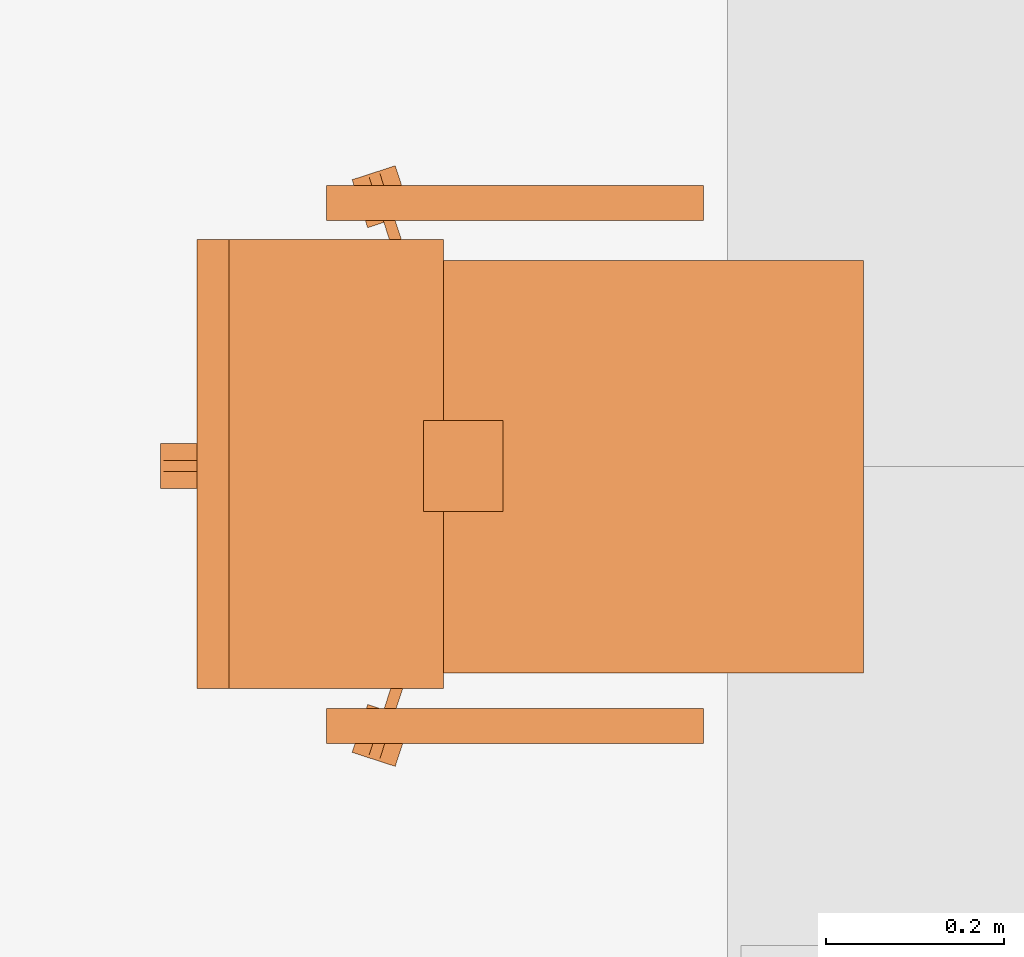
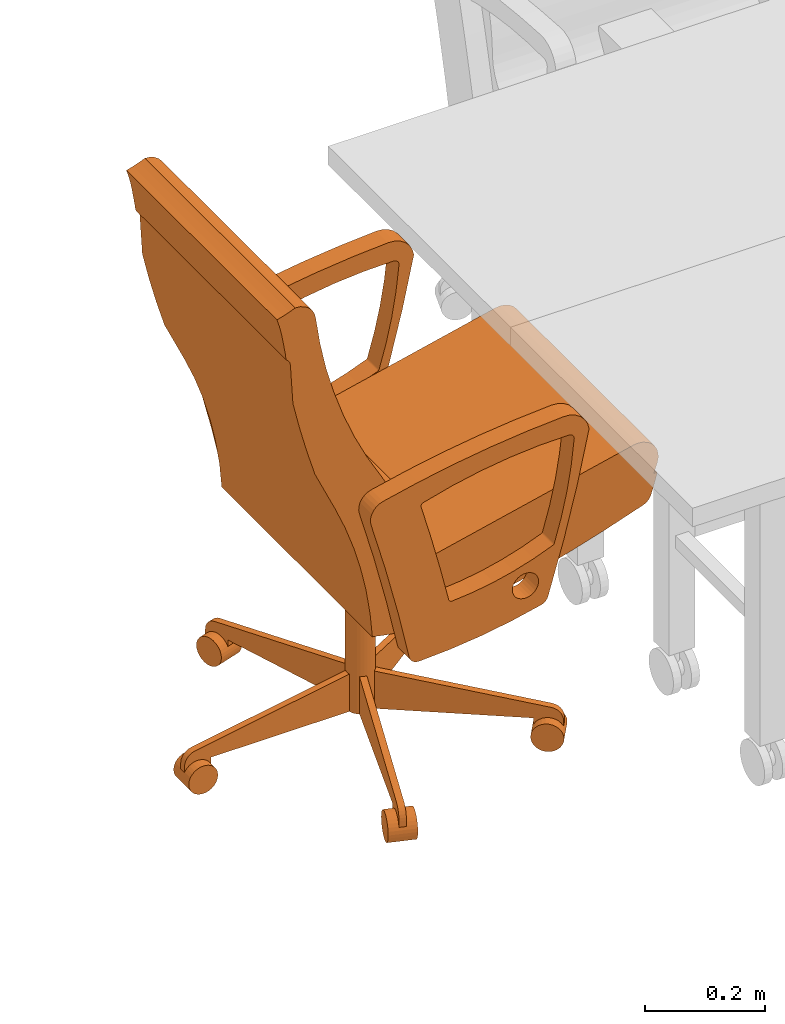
# One storey, part 50 of 142: 1 proxy.
"""IFC2X3 building model written with IfcOpenShell, lengths in feet."""

from ifc_helpers import new_model, entity, si_unit, converted_unit, derived_unit, direction, frame, frame_2d, origin, place, context, subcontext, project, spatial, polyline, circle_curve, parameter, trimmed, segment, composite_curve, circle, outline, extrude, source, transform, mapped, type_object, type_shapes, element, save


model = new_model("IFC2X3")

# Units and contexts
model_context = context("Model", 3, precision=0.0001, world=origin(), true_north=direction((6.12303176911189e-17, 1.0)))
body_context = subcontext(model_context, "Body", "Model", "MODEL_VIEW")
ifc_project = project(units=[converted_unit("LENGTHUNIT", "FOOT", entity("IfcRatioMeasure", 0.3048), si_unit("LENGTHUNIT", "METRE"), dimensions=[1, 0, 0, 0, 0, 0, 0]), converted_unit("AREAUNIT", "SQUARE FOOT", entity("IfcRatioMeasure", 0.09290304), si_unit("AREAUNIT", "SQUARE_METRE"), dimensions=[2, 0, 0, 0, 0, 0, 0]), converted_unit("VOLUMEUNIT", "CUBIC FOOT", entity("IfcRatioMeasure", 0.028316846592), si_unit("VOLUMEUNIT", "CUBIC_METRE"), dimensions=[3, 0, 0, 0, 0, 0, 0]), converted_unit("PLANEANGLEUNIT", "DEGREE", entity("IfcRatioMeasure", 0.0174532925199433), si_unit("PLANEANGLEUNIT", "RADIAN"), dimensions=[0, 0, 0, 0, 0, 0, 0]), si_unit("MASSUNIT", "GRAM", prefix="KILO"), derived_unit("MASSDENSITYUNIT", [(si_unit("MASSUNIT", "GRAM", prefix="KILO"), 1), (si_unit("LENGTHUNIT", "METRE"), -3)]), si_unit("TIMEUNIT", "SECOND"), si_unit("FREQUENCYUNIT", "HERTZ"), si_unit("THERMODYNAMICTEMPERATUREUNIT", "DEGREE_CELSIUS"), derived_unit("THERMALTRANSMITTANCEUNIT", [(si_unit("MASSUNIT", "GRAM", prefix="KILO"), 1), (si_unit("THERMODYNAMICTEMPERATUREUNIT", "KELVIN"), -1), (si_unit("TIMEUNIT", "SECOND"), -3)]), derived_unit("VOLUMETRICFLOWRATEUNIT", [(si_unit("LENGTHUNIT", "METRE"), 3), (si_unit("TIMEUNIT", "SECOND"), -1)]), si_unit("ELECTRICCURRENTUNIT", "AMPERE"), si_unit("ELECTRICVOLTAGEUNIT", "VOLT"), si_unit("POWERUNIT", "WATT"), si_unit("FORCEUNIT", "NEWTON"), si_unit("ILLUMINANCEUNIT", "LUX"), si_unit("LUMINOUSFLUXUNIT", "LUMEN"), si_unit("LUMINOUSINTENSITYUNIT", "CANDELA"), derived_unit("USERDEFINED", [(si_unit("MASSUNIT", "GRAM", prefix="KILO"), -1), (si_unit("LENGTHUNIT", "METRE"), -2), (si_unit("TIMEUNIT", "SECOND"), 3), (si_unit("LUMINOUSFLUXUNIT", "LUMEN"), 1)]), derived_unit("LINEARVELOCITYUNIT", [(si_unit("LENGTHUNIT", "METRE"), 1), (si_unit("TIMEUNIT", "SECOND"), -1)]), si_unit("PRESSUREUNIT", "PASCAL"), derived_unit("USERDEFINED", [(si_unit("LENGTHUNIT", "METRE"), -2), (si_unit("MASSUNIT", "GRAM", prefix="KILO"), 1), (si_unit("TIMEUNIT", "SECOND"), -2)])], contexts=[model_context])

# Site, building, storey, space
site_placement = place(None, origin())
site = spatial("IfcSite", under=ifc_project, at=site_placement, Name="Default", CompositionType="ELEMENT")
building_placement = place(site_placement, origin())
building = spatial("IfcBuilding", under=site, at=building_placement, Name="OUTPATIENT / PACT CLINIC (Ch. 265)", CompositionType="ELEMENT")
storey_placement = place(building_placement, origin())
storey = spatial("IfcBuildingStorey", under=building, at=storey_placement, Name="LEVEL 1", CompositionType="ELEMENT", Elevation=0.0)
space_placement = place(storey_placement, origin())
space = spatial("IfcSpace", under=storey, at=space_placement, Name="WRTM1", CompositionType="ELEMENT", InteriorOrExteriorSpace="INTERNAL")

# Proxy
building_element_proxy_type = type_object("IfcBuildingElementProxyType", Name="F0220 - Chair, Conference", PredefinedType="NOTDEFINED")
shared_shape = source(origin(), body_context, "Body", "SweptSolid", [
    extrude(outline(composite_curve([segment(trimmed(circle_curve(frame_2d((-0.548378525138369, -0.54006253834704), x_axis=(1.0, 0.0)), 0.156713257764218), [parameter(187.136710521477)], [parameter(273.006994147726)], True, "PARAMETER"), True, "CONTINUOUS"), segment(trimmed(circle_curve(frame_2d((-0.866637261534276, 5.51852508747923), x_axis=(1.0, 0.0)), 6.22365422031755), [parameter(273.006994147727)], [parameter(283.63517906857)], True, "PARAMETER"), True, "CONTINUOUS"), segment(trimmed(circle_curve(frame_2d((0.575436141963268, -0.426318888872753), x_axis=(1.0, 0.0)), 0.106404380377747), [parameter(283.63517906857)], [parameter(16.3648209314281)], True, "PARAMETER"), True, "CONTINUOUS"), segment(trimmed(circle_curve(frame_2d((12.2871693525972, 3.01281927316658), x_axis=(1.0, 0.0)), 12.0998385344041), [parameter(191.635179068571)], [parameter(196.364820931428)], True, "PARAMETER"), False, "CONTINUOUS"), segment(trimmed(circle_curve(frame_2d((0.374732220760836, 0.559015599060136), x_axis=(1.0, 0.0)), 0.0627049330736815), [parameter(12.4480385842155)], [parameter(91.6711811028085)], True, "PARAMETER"), True, "CONTINUOUS"), segment(trimmed(circle_curve(frame_2d((0.478250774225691, -2.98907031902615), x_axis=(1.0, 0.0)), 3.61230065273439), [parameter(91.6711811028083)], [parameter(104.057744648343)], True, "PARAMETER"), True, "CONTINUOUS"), segment(trimmed(circle_curve(frame_2d((-0.383994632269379, 0.454418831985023), x_axis=(1.0, 0.0)), 0.0625), [parameter(104.057744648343)], [parameter(162.816884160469)], True, "PARAMETER"), True, "CONTINUOUS"), segment(trimmed(circle_curve(frame_2d((9.14984606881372, -2.49371945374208), x_axis=(1.0, 0.0)), 10.0417603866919), [parameter(162.816884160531)], [parameter(168.894605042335)], True, "PARAMETER"), True, "CONTINUOUS")], self_intersect=False), holes=[composite_curve([segment(trimmed(circle_curve(frame_2d((12.2923776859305, 3.01281927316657), x_axis=(1.0, 0.0)), 12.4123385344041), [parameter(192.741870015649)], [parameter(195.991286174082)], True, "PARAMETER"), True, "CONTINUOUS"), segment(trimmed(circle_curve(frame_2d((0.340324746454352, -0.412409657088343), x_axis=(1.0, 0.0)), 0.0208333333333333), [parameter(286.604073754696)], [parameter(15.9912861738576)], True, "PARAMETER"), False, "CONTINUOUS"), segment(trimmed(circle_curve(frame_2d((-0.540439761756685, 2.54128905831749), x_axis=(1.0, 0.0)), 3.1030536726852), [parameter(269.369775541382)], [parameter(286.604073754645)], True, "PARAMETER"), False, "CONTINUOUS"), segment(trimmed(circle_curve(frame_2d((-0.574176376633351, -0.525693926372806), x_axis=(1.0, 0.0)), 0.0358851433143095), [parameter(161.887842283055)], [parameter(269.369775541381)], True, "PARAMETER"), False, "CONTINUOUS"), segment(trimmed(circle_curve(frame_2d((2.4385579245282, -0.768421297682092), x_axis=(1.0, 0.0)), 3.05740066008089), [parameter(162.893812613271)], [parameter(175.236734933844)], True, "PARAMETER"), False, "CONTINUOUS"), segment(trimmed(circle_curve(frame_2d((-0.469775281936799, 0.128159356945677), x_axis=(1.0, 0.0)), 0.0140798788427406), [parameter(113.070266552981)], [parameter(168.803309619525)], True, "PARAMETER"), False, "CONTINUOUS"), segment(trimmed(circle_curve(frame_2d((0.277251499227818, -1.62574197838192), x_axis=(1.0, 0.0)), 1.92044262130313), [parameter(93.3759131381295)], [parameter(113.070266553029)], True, "PARAMETER"), False, "CONTINUOUS"), segment(trimmed(circle_curve(frame_2d((0.165389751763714, 0.270570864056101), x_axis=(1.0, 0.0)), 0.0208333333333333), [parameter(12.7418700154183)], [parameter(93.375913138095)], True, "PARAMETER"), False, "CONTINUOUS")], self_intersect=False), composite_curve([segment(trimmed(circle_curve(frame_2d((-0.300575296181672, 0.351220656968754), x_axis=(1.0, 0.0)), 0.0833333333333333), [parameter(180.0)], [parameter(0.0)], True, "PARAMETER"), False, "CONTINUOUS"), segment(trimmed(circle_curve(frame_2d((-0.300575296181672, 0.351220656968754), x_axis=(1.0, 0.0)), 0.0833333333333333), [parameter(3.05333249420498e-13)], [parameter(180.0)], True, "PARAMETER"), False, "CONTINUOUS")], self_intersect=False)]), frame((-1.03331274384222, -0.0541567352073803, 1.78474215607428), z_axis=(1.0, 0.0, 0.0), x_axis=(0.0, -1.0, 0.0)), (0.0, 0.0, 1.0), 0.128812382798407),
    extrude(outline(composite_curve([segment(trimmed(circle_curve(frame_2d((-0.548378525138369, -0.54006253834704), x_axis=(1.0, 0.0)), 0.156713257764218), [parameter(187.136710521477)], [parameter(273.006994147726)], True, "PARAMETER"), True, "CONTINUOUS"), segment(trimmed(circle_curve(frame_2d((-0.866637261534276, 5.51852508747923), x_axis=(1.0, 0.0)), 6.22365422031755), [parameter(273.006994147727)], [parameter(283.63517906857)], True, "PARAMETER"), True, "CONTINUOUS"), segment(trimmed(circle_curve(frame_2d((0.575436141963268, -0.426318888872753), x_axis=(1.0, 0.0)), 0.106404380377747), [parameter(283.63517906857)], [parameter(16.3648209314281)], True, "PARAMETER"), True, "CONTINUOUS"), segment(trimmed(circle_curve(frame_2d((12.2871693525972, 3.01281927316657), x_axis=(1.0, 0.0)), 12.0998385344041), [parameter(191.635179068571)], [parameter(196.364820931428)], True, "PARAMETER"), False, "CONTINUOUS"), segment(trimmed(circle_curve(frame_2d((0.374732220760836, 0.559015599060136), x_axis=(1.0, 0.0)), 0.0627049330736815), [parameter(12.4480385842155)], [parameter(91.6711811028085)], True, "PARAMETER"), True, "CONTINUOUS"), segment(trimmed(circle_curve(frame_2d((0.478250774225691, -2.98907031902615), x_axis=(1.0, 0.0)), 3.61230065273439), [parameter(91.6711811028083)], [parameter(104.057744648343)], True, "PARAMETER"), True, "CONTINUOUS"), segment(trimmed(circle_curve(frame_2d((-0.383994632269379, 0.454418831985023), x_axis=(1.0, 0.0)), 0.0625), [parameter(104.057744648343)], [parameter(162.816884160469)], True, "PARAMETER"), True, "CONTINUOUS"), segment(trimmed(circle_curve(frame_2d((9.14984606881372, -2.49371945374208), x_axis=(1.0, 0.0)), 10.0417603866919), [parameter(162.816884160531)], [parameter(168.894605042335)], True, "PARAMETER"), True, "CONTINUOUS")], self_intersect=False), holes=[composite_curve([segment(trimmed(circle_curve(frame_2d((12.2923776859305, 3.01281927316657), x_axis=(1.0, 0.0)), 12.4123385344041), [parameter(192.741870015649)], [parameter(195.991286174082)], True, "PARAMETER"), True, "CONTINUOUS"), segment(trimmed(circle_curve(frame_2d((0.340324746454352, -0.412409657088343), x_axis=(1.0, 0.0)), 0.0208333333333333), [parameter(286.604073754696)], [parameter(15.9912861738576)], True, "PARAMETER"), False, "CONTINUOUS"), segment(trimmed(circle_curve(frame_2d((-0.540439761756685, 2.54128905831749), x_axis=(1.0, 0.0)), 3.1030536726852), [parameter(269.369775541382)], [parameter(286.604073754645)], True, "PARAMETER"), False, "CONTINUOUS"), segment(trimmed(circle_curve(frame_2d((-0.574176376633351, -0.525693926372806), x_axis=(1.0, 0.0)), 0.0358851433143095), [parameter(161.887842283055)], [parameter(269.369775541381)], True, "PARAMETER"), False, "CONTINUOUS"), segment(trimmed(circle_curve(frame_2d((2.4385579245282, -0.768421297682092), x_axis=(1.0, 0.0)), 3.05740066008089), [parameter(162.893812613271)], [parameter(175.236734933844)], True, "PARAMETER"), False, "CONTINUOUS"), segment(trimmed(circle_curve(frame_2d((-0.469775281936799, 0.128159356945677), x_axis=(1.0, 0.0)), 0.0140798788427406), [parameter(113.070266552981)], [parameter(168.803309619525)], True, "PARAMETER"), False, "CONTINUOUS"), segment(trimmed(circle_curve(frame_2d((0.277251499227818, -1.62574197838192), x_axis=(1.0, 0.0)), 1.92044262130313), [parameter(93.3759131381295)], [parameter(113.070266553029)], True, "PARAMETER"), False, "CONTINUOUS"), segment(trimmed(circle_curve(frame_2d((0.165389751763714, 0.270570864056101), x_axis=(1.0, 0.0)), 0.0208333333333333), [parameter(12.7418700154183)], [parameter(93.375913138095)], True, "PARAMETER"), False, "CONTINUOUS")], self_intersect=False), composite_curve([segment(trimmed(circle_curve(frame_2d((-0.300575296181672, 0.351220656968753), x_axis=(1.0, 0.0)), 0.0833333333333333), [parameter(180.0)], [parameter(0.0)], True, "PARAMETER"), False, "CONTINUOUS"), segment(trimmed(circle_curve(frame_2d((-0.300575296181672, 0.351220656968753), x_axis=(1.0, 0.0)), 0.0833333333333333), [parameter(3.05333249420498e-13)], [parameter(180.0)], True, "PARAMETER"), False, "CONTINUOUS")], self_intersect=False)]), frame((0.889516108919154, -0.0541567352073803, 1.78474215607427), z_axis=(1.0, 0.0, 0.0), x_axis=(0.0, -1.0, 0.0)), (0.0, 0.0, 1.0), 0.128812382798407),
    extrude(outline(composite_curve([segment(trimmed(circle_curve(frame_2d((0.770862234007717, -1.97589519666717), x_axis=(1.0, 0.0)), 2.24250574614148), [parameter(83.7744840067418)], [parameter(104.587152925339)], True, "PARAMETER"), True, "CONTINUOUS"), segment(trimmed(circle_curve(frame_2d((2.30952075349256, -7.88833070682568), x_axis=(1.0, 0.0)), 8.35187262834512), [parameter(104.587152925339)], [parameter(109.615059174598)], True, "PARAMETER"), True, "CONTINUOUS"), segment(trimmed(circle_curve(frame_2d((-0.466775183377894, -0.0980657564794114), x_axis=(1.0, 0.0)), 0.0816823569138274), [parameter(109.6150591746)], [parameter(157.671413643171)], True, "PARAMETER"), True, "CONTINUOUS"), segment(trimmed(circle_curve(frame_2d((0.971574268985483, -0.5925380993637), x_axis=(1.0, 0.0)), 1.60252010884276), [parameter(160.857176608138)], [parameter(166.076927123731)], True, "PARAMETER"), True, "CONTINUOUS"), segment(trimmed(circle_curve(frame_2d((-0.579633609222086, -0.207989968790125), x_axis=(1.0, 0.0)), 0.00435768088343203), [parameter(166.076927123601)], [parameter(280.378705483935)], True, "PARAMETER"), True, "CONTINUOUS"), segment(trimmed(circle_curve(frame_2d((16.5125965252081, -93.5315619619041), x_axis=(1.0, 0.0)), 94.871526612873), [parameter(99.4235676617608)], [parameter(100.378705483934)], True, "PARAMETER"), False, "CONTINUOUS"), segment(trimmed(circle_curve(frame_2d((1.87003600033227, -0.000965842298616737), x_axis=(1.0, 0.0)), 0.89298195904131), [parameter(163.451060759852)], [parameter(176.106880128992)], True, "PARAMETER"), False, "CONTINUOUS")], self_intersect=False)), frame((-0.758282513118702, 0.647436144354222, 1.48104866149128), z_axis=(1.0, 0.0, 0.0), x_axis=(0.0, -1.0, 0.0)), (0.0, 0.0, 1.0), 1.51656502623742),
    extrude(outline(composite_curve([segment(trimmed(circle_curve(frame_2d((16.4660541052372, -93.3276059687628), x_axis=(1.0, 0.0)), 94.871526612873), [parameter(99.4253791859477)], [parameter(100.368473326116)], True, "PARAMETER"), True, "CONTINUOUS"), segment(polyline([(-0.608725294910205, -0.00526957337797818), (-0.631085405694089, -0.0702080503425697)]), True, "CONTINUOUS"), segment(trimmed(circle_curve(frame_2d((-0.507608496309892, -0.112724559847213), x_axis=(1.0, 0.0)), 0.130591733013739), [parameter(161.000000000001)], [parameter(282.525711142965)], True, "PARAMETER"), True, "CONTINUOUS"), segment(polyline([(-0.479286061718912, -0.240208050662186), (0.789483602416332, 0.0525572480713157)]), True, "CONTINUOUS"), segment(trimmed(circle_curve(frame_2d((0.748071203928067, 0.23202795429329), x_axis=(1.0, 0.0)), 0.184186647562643), [parameter(282.993429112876)], [parameter(9.72113802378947)], True, "PARAMETER"), True, "CONTINUOUS")], self_intersect=False)), frame((-0.758282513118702, 0.600893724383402, 1.6850046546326), z_axis=(1.0, 0.0, 0.0), x_axis=(0.0, -1.0, 0.0)), (0.0, 0.0, 1.0), 1.51656502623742),
    extrude(outline(composite_curve([segment(trimmed(circle_curve(frame_2d((0.782331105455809, -5.68137094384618), x_axis=(-0.420119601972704, 0.907468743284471)), 5.89579235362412), [parameter(342.407441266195)], [parameter(347.674731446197)], True, "PARAMETER"), True, "CONTINUOUS"), segment(polyline([(-0.495446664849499, 0.0742916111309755), (-0.742416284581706, -0.0223565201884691)]), True, "CONTINUOUS"), segment(trimmed(circle_curve(frame_2d((-0.761539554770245, 0.0265100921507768), x_axis=(-0.420119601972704, 0.907468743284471)), 0.0524751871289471), [parameter(121.399025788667)], [parameter(176.530061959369)], True, "PARAMETER"), False, "CONTINUOUS"), segment(trimmed(circle_curve(frame_2d((-0.772508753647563, -0.152384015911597), x_axis=(-0.420119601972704, 0.907468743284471)), 0.136484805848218), [parameter(342.817239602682)], [parameter(358.256726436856)], True, "PARAMETER"), True, "CONTINUOUS"), segment(polyline([(-0.82605432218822, -0.0268412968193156), (-0.939530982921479, -0.0580534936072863)]), True, "CONTINUOUS"), segment(trimmed(circle_curve(frame_2d((-1.17061269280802, 0.782079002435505), x_axis=(-0.420119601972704, 0.907468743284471)), 0.871333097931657), [parameter(161.216169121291)], [parameter(170.536983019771)], True, "PARAMETER"), False, "CONTINUOUS"), segment(trimmed(circle_curve(frame_2d((-1.8181528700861, -0.2248215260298), x_axis=(-0.420119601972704, 0.907468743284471)), 0.752717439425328), [parameter(246.521848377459)], [parameter(255.910489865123)], True, "PARAMETER"), False, "CONTINUOUS"), segment(trimmed(circle_curve(frame_2d((-0.949337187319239, -0.155867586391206), x_axis=(-0.420119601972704, 0.907468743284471)), 0.127016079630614), [parameter(88.8492703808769)], [parameter(173.15072961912)], True, "PARAMETER"), True, "CONTINUOUS"), segment(trimmed(circle_curve(frame_2d((0.0257178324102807, -3.15804982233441), x_axis=(-0.420119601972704, 0.907468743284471)), 3.02953749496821), [parameter(328.849270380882)], [parameter(353.150729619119)], True, "PARAMETER"), False, "CONTINUOUS"), segment(trimmed(circle_curve(frame_2d((0.483690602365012, 0.984520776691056), x_axis=(-0.420119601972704, 0.907468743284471)), 1.13827130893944), [parameter(148.849270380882)], [parameter(180.0)], True, "PARAMETER"), True, "CONTINUOUS"), segment(trimmed(circle_curve(frame_2d((1.07518053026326, -0.33138149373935), x_axis=(-0.420119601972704, 0.907468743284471)), 0.304789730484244), [parameter(317.298982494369)], [parameter(356.976233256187)], True, "PARAMETER"), False, "CONTINUOUS"), segment(trimmed(circle_curve(frame_2d((1.31918409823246, -0.14741320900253), x_axis=(-0.420119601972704, 0.907468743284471)), 0.184186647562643), [parameter(355.215711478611)], [parameter(29.9715875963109)], True, "PARAMETER"), False, "CONTINUOUS"), segment(trimmed(circle_curve(frame_2d((0.841027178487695, 0.816299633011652), x_axis=(-0.420119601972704, 0.907468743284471)), 0.89298195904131), [parameter(182.849969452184)], [parameter(196.548939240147)], True, "PARAMETER"), True, "CONTINUOUS"), segment(trimmed(circle_curve(frame_2d((-0.48937503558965, -1.01087273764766), x_axis=(-0.420119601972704, 0.907468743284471)), 2.24250574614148), [parameter(276.225515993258)], [parameter(282.457471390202)], True, "PARAMETER"), True, "CONTINUOUS"), segment(trimmed(circle_curve(frame_2d((0.339089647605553, 2.78255473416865), x_axis=(-0.420119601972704, 0.907468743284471)), 2.61526502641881), [parameter(155.15786130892)], [parameter(176.584898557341)], True, "PARAMETER"), False, "CONTINUOUS"), segment(polyline([(0.339089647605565, 0.167289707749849), (0.0383310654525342, 0.167289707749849)]), True, "CONTINUOUS")], self_intersect=False)), frame((-0.836149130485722, -0.835165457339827, 2.58816385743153), z_axis=(-1.0, 0.0, 0.0), x_axis=(0.0, 0.420119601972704, -0.907468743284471)), (0.0, 0.0, -1.0), 1.65266976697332),
    extrude(circle(Radius=0.0833333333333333, at=frame_2d((0.0, -1.11022302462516e-16), x_axis=(1.0, 0.0))), frame((-0.00206593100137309, -0.212136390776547, 0.173534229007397)), (0.0, 0.0, 1.0), 1.0846174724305),
    extrude(circle(Radius=0.0925205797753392, at=frame_2d((0.0, -1.52655665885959e-16), x_axis=(1.0, 0.0))), frame((0.962866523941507, -0.613283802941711, 0.0902008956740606), z_axis=(0.309016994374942, 0.951056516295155, 0.0), x_axis=(0.951056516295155, -0.309016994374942, 0.0)), (0.0, 0.0, 1.0), 0.166666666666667),
    extrude(outline(composite_curve([segment(polyline([(-0.29506616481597, -0.0510253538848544), (0.663267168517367, -0.0510253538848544)]), True, "CONTINUOUS"), segment(polyline([(0.663267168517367, -0.0510253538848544), (0.663267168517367, 0.198974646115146)]), True, "CONTINUOUS"), segment(polyline([(0.663267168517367, 0.198974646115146), (0.579933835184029, 0.198974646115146)]), True, "CONTINUOUS"), segment(polyline([(0.579933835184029, 0.198974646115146), (-0.392870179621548, 0.027443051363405)]), True, "CONTINUOUS"), segment(trimmed(circle_curve(frame_2d((-0.378399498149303, -0.0546242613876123), x_axis=(-1.0, 0.0)), 0.0833333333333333), [parameter(280.0)], [parameter(0.0)], True, "PARAMETER"), True, "CONTINUOUS"), segment(polyline([(-0.461732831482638, -0.0546242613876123), (-0.461732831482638, -0.134358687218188)]), True, "CONTINUOUS"), segment(polyline([(-0.461732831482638, -0.134358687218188), (-0.29506616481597, -0.134358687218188)]), True, "CONTINUOUS"), segment(polyline([(-0.29506616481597, -0.134358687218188), (-0.29506616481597, -0.0510253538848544)]), True, "CONTINUOUS")], self_intersect=False)), frame((0.62230077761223, -0.436910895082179, 0.224559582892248), z_axis=(0.309016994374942, 0.951056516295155, 0.0), x_axis=(-0.951056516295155, 0.309016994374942, 0.0)), (0.0, 0.0, 1.0), 0.0416666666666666),
    extrude(circle(Radius=0.0925205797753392, at=frame_2d((0.0, -1.52655665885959e-16), x_axis=(1.0, 0.0))), frame((0.677628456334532, 0.581607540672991, 0.0902008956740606), z_axis=(-0.80901699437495, 0.58778525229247, 0.0), x_axis=(0.58778525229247, 0.80901699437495, 0.0)), (0.0, 0.0, 1.0), 0.166666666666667),
    extrude(outline(composite_curve([segment(polyline([(0.051025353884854, 0.295066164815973), (0.134358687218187, 0.295066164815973)]), True, "CONTINUOUS"), segment(polyline([(0.134358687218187, 0.295066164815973), (0.134358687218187, 0.461732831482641)]), True, "CONTINUOUS"), segment(polyline([(0.134358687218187, 0.461732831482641), (0.0546242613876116, 0.461732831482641)]), True, "CONTINUOUS"), segment(trimmed(circle_curve(frame_2d((0.0546242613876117, 0.378399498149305), x_axis=(0.0, 1.0)), 0.0833333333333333), [parameter(0.0)], [parameter(79.9999999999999)], True, "PARAMETER"), True, "CONTINUOUS"), segment(polyline([(-0.0274430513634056, 0.392870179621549), (-0.198974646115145, -0.579933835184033)]), True, "CONTINUOUS"), segment(polyline([(-0.198974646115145, -0.579933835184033), (-0.198974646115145, -0.66326716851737)]), True, "CONTINUOUS"), segment(polyline([(-0.198974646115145, -0.66326716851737), (0.0510253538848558, -0.66326716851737)]), True, "CONTINUOUS"), segment(polyline([(0.0510253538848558, -0.66326716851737), (0.051025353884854, 0.295066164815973)]), True, "CONTINUOUS")], self_intersect=False)), frame((0.370938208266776, 0.336703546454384, 0.224559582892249), z_axis=(0.80901699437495, -0.58778525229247, 0.0), x_axis=(0.0, 0.0, -1.0)), (0.0, 0.0, 1.0), 0.0416666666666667),
    extrude(circle(Radius=0.0925205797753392, at=frame_2d((0.0, -1.52655665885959e-16), x_axis=(1.0, 0.0))), frame((-0.681760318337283, 0.581607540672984, 0.0902008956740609), z_axis=(0.809016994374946, 0.587785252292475, 0.0), x_axis=(-0.587785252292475, 0.809016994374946, 0.0)), (0.0, 0.0, 1.0), 0.166666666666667),
    extrude(outline(composite_curve([segment(polyline([(0.0510253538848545, 0.29506616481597), (0.134358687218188, 0.29506616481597)]), True, "CONTINUOUS"), segment(polyline([(0.134358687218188, 0.29506616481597), (0.134358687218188, 0.461732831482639)]), True, "CONTINUOUS"), segment(polyline([(0.134358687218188, 0.461732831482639), (0.0546242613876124, 0.461732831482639)]), True, "CONTINUOUS"), segment(trimmed(circle_curve(frame_2d((0.0546242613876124, 0.378399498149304), x_axis=(0.0, 1.0)), 0.0833333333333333), [parameter(0.0)], [parameter(79.9999999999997)], True, "PARAMETER"), True, "CONTINUOUS"), segment(polyline([(-0.0274430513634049, 0.392870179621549), (-0.198974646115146, -0.57993383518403)]), True, "CONTINUOUS"), segment(polyline([(-0.198974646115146, -0.57993383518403), (-0.198974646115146, -0.663267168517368)]), True, "CONTINUOUS"), segment(polyline([(-0.198974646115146, -0.663267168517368), (0.0510253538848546, -0.663267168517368)]), True, "CONTINUOUS"), segment(polyline([(0.0510253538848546, -0.663267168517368), (0.0510253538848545, 0.29506616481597)]), True, "CONTINUOUS")], self_intersect=False)), frame((-0.408779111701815, 0.312212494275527, 0.224559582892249), z_axis=(0.809016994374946, 0.587785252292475, 0.0), x_axis=(0.0, 0.0, -1.0)), (0.0, 0.0, 1.0), 0.0416666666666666),
    extrude(circle(Radius=0.0925205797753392, at=frame_2d((0.0, -1.52655665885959e-16), x_axis=(1.0, 0.0))), frame((-0.966998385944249, -0.613283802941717, 0.0902008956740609), z_axis=(-0.309016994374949, 0.951056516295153, 0.0), x_axis=(-0.951056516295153, -0.309016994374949, 0.0)), (0.0, 0.0, 1.0), 0.166666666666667),
    extrude(outline(composite_curve([segment(polyline([(0.0510253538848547, 0.29506616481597), (0.134358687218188, 0.29506616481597)]), True, "CONTINUOUS"), segment(polyline([(0.134358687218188, 0.29506616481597), (0.134358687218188, 0.461732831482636)]), True, "CONTINUOUS"), segment(polyline([(0.134358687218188, 0.461732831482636), (0.0546242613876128, 0.461732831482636)]), True, "CONTINUOUS"), segment(trimmed(circle_curve(frame_2d((0.0546242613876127, 0.378399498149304), x_axis=(0.0, 1.0)), 0.0833333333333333), [parameter(0.0)], [parameter(79.9999999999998)], True, "PARAMETER"), True, "CONTINUOUS"), segment(polyline([(-0.0274430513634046, 0.392870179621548), (-0.198974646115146, -0.579933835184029)]), True, "CONTINUOUS"), segment(polyline([(-0.198974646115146, -0.579933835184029), (-0.198974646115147, -0.663267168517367)]), True, "CONTINUOUS"), segment(polyline([(-0.198974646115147, -0.663267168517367), (0.0510253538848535, -0.663267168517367)]), True, "CONTINUOUS"), segment(polyline([(0.0510253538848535, -0.663267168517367), (0.0510253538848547, 0.29506616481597)]), True, "CONTINUOUS")], self_intersect=False)), frame((-0.626432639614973, -0.436910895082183, 0.224559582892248), z_axis=(-0.309016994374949, 0.951056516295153, 0.0), x_axis=(0.0, 0.0, -1.0)), (0.0, 0.0, 1.0), 0.0416666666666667),
    extrude(circle(Radius=0.0925205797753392, at=frame_2d((9.00566595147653e-34, -1.52655665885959e-16), x_axis=(1.0, 0.0))), frame((-0.0853992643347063, -1.25380305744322, 0.0902008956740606), z_axis=(1.0, 0.0, 0.0), x_axis=(0.0, -1.0, 0.0)), (0.0, 0.0, 1.0), 0.166666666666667),
    extrude(outline(composite_curve([segment(polyline([(-0.29506616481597, -0.0510253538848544), (0.663267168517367, -0.0510253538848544)]), True, "CONTINUOUS"), segment(polyline([(0.663267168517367, -0.0510253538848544), (0.663267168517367, 0.198974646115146)]), True, "CONTINUOUS"), segment(polyline([(0.663267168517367, 0.198974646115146), (0.579933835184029, 0.198974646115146)]), True, "CONTINUOUS"), segment(polyline([(0.579933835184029, 0.198974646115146), (-0.392870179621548, 0.027443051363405)]), True, "CONTINUOUS"), segment(trimmed(circle_curve(frame_2d((-0.378399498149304, -0.0546242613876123), x_axis=(-1.0, 0.0)), 0.0833333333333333), [parameter(280.0)], [parameter(0.0)], True, "PARAMETER"), True, "CONTINUOUS"), segment(polyline([(-0.461732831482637, -0.0546242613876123), (-0.461732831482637, -0.134358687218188)]), True, "CONTINUOUS"), segment(polyline([(-0.461732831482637, -0.134358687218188), (-0.29506616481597, -0.134358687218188)]), True, "CONTINUOUS"), segment(polyline([(-0.29506616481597, -0.134358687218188), (-0.29506616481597, -0.0510253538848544)]), True, "CONTINUOUS")], self_intersect=False)), frame((-0.0228992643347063, -0.875403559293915, 0.224559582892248), z_axis=(1.0, 0.0, 0.0), x_axis=(0.0, 1.0, 0.0)), (0.0, 0.0, 1.0), 0.0416666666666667),
    extrude(outline(polyline([(-0.140470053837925, -0.149999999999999), (-0.0988033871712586, -0.149999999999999), (0.189871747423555, 0.0166666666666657), (0.189871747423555, 0.141666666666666), (-0.140470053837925, 0.141666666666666), (-0.140470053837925, -0.149999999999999)])), frame((-0.168732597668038, -0.228803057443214, 1.57571509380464), z_axis=(1.0, 0.0, 0.0), x_axis=(0.0, 0.0, -1.0)), (0.0, 0.0, 1.0), 0.333333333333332),
])
type_shapes(building_element_proxy_type, [shared_shape])
proxy_placement = place(space_placement, frame((410.571032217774, -898.472588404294, 0.0), z_axis=(0.0, 0.0, 1.0), x_axis=(0.0, -1.0, 0.0)))
element("IfcBuildingElementProxy", 1, at=proxy_placement, inside=space, type_object=building_element_proxy_type, Name="F0220 - Chair, Conference:F0220 - Chair, Conference", ObjectType="F0220 - Chair, Conference", context=body_context, shape_type="MappedRepresentation", body=[
    mapped(shared_shape, transform((0.0, 0.0, 0.0), scale=1.0)),
])

save(model, "model.ifc")
